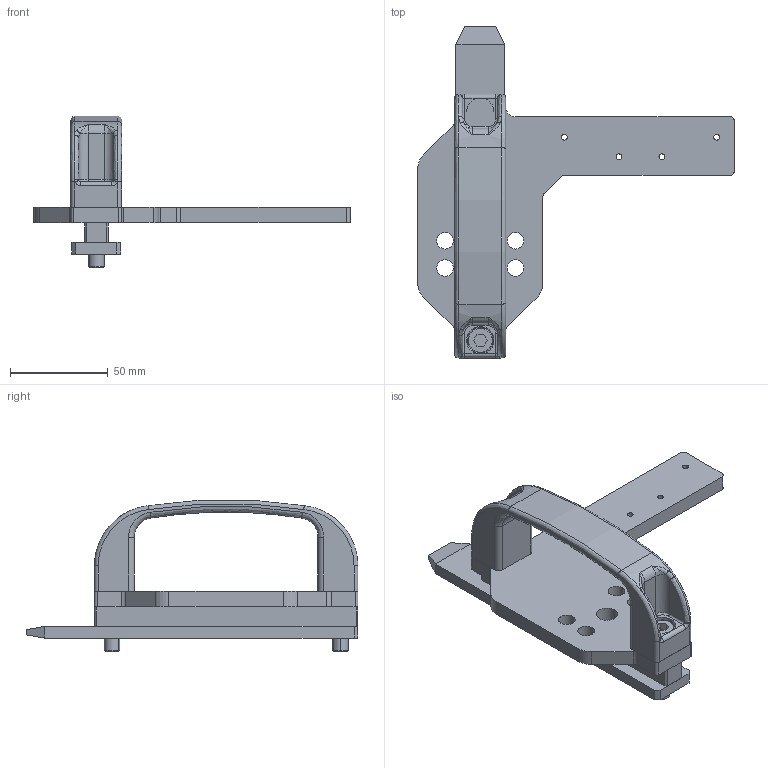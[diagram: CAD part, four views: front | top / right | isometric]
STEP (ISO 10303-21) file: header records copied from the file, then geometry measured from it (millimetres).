
FILE_DESCRIPTION (( 'STEP AP203' ), '1' );
FILE_NAME ('GBN-1-Left Handle (STEP format).STEP', '2015-09-04T08:17:16', ( '' ), ( '' ), 'SwSTEP 2.0', 'SolidWorks 2015', '' );
FILE_SCHEMA (( 'CONFIG_CONTROL_DESIGN' ));
Length unit declared in the file: millimetre
Products named in the file (1): GBN-1-Left Handle (STEP format)
Bounding box: 162 x 170 x 77.65 mm (x, y, z)
Volume: 154938.2 mm3; surface area: 63278.2 mm2
Topology: 6 solids, 6 shells, 335 faces, 811 edges, 478 vertices
Faces by surface type: cylinder 146, plane 101, bspline 76, torus 8, cone 4
Entity records: 12849 total; most frequent: CARTESIAN_POINT 5345, ORIENTED_EDGE 1574, DIRECTION 1525, EDGE_CURVE 787, AXIS2_PLACEMENT_3D 582, VERTEX_POINT 476, EDGE_LOOP 385, VECTOR 361
